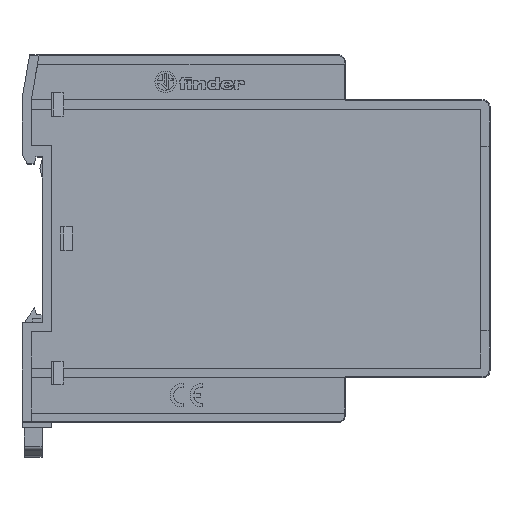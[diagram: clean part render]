
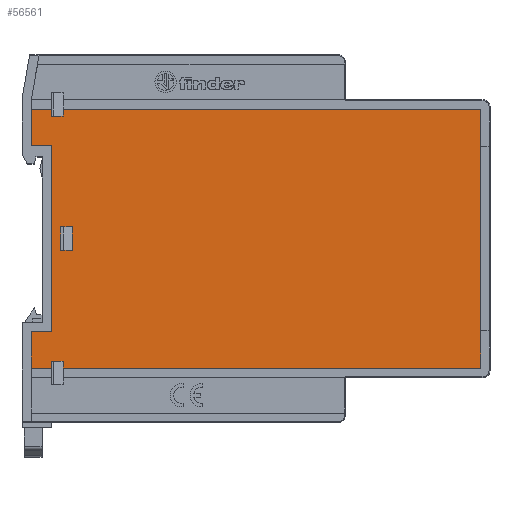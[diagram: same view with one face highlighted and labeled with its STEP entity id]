
A CAD part, top view. The second image highlights one B-rep face of the part: STEP entity #56561.
In plain terms, the highlighted planar face has unit normal (0, 0, 1).
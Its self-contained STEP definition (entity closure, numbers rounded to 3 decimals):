
#2305=PLANE('',#61468);
#16286=ORIENTED_EDGE('',*,*,#25483,.F.);
#16287=ORIENTED_EDGE('',*,*,#25484,.T.);
#16288=ORIENTED_EDGE('',*,*,#25485,.F.);
#16289=ORIENTED_EDGE('',*,*,#25486,.T.);
#16290=ORIENTED_EDGE('',*,*,#25487,.F.);
#16291=ORIENTED_EDGE('',*,*,#25488,.T.);
#16292=ORIENTED_EDGE('',*,*,#25489,.F.);
#16293=ORIENTED_EDGE('',*,*,#25490,.T.);
#16294=ORIENTED_EDGE('',*,*,#25491,.F.);
#16295=ORIENTED_EDGE('',*,*,#25492,.T.);
#16296=ORIENTED_EDGE('',*,*,#25493,.F.);
#16297=ORIENTED_EDGE('',*,*,#25477,.T.);
#16298=ORIENTED_EDGE('',*,*,#25475,.T.);
#16299=ORIENTED_EDGE('',*,*,#25482,.T.);
#16300=ORIENTED_EDGE('',*,*,#25494,.F.);
#16301=ORIENTED_EDGE('',*,*,#25495,.F.);
#16302=ORIENTED_EDGE('',*,*,#25496,.T.);
#16303=ORIENTED_EDGE('',*,*,#25497,.F.);
#16304=ORIENTED_EDGE('',*,*,#25498,.F.);
#16305=ORIENTED_EDGE('',*,*,#25499,.F.);
#25475=EDGE_CURVE('',#32360,#32359,#40125,.T.);
#25477=EDGE_CURVE('',#32361,#32360,#40127,.T.);
#25482=EDGE_CURVE('',#32359,#32364,#40132,.T.);
#25483=EDGE_CURVE('',#32365,#32366,#40133,.T.);
#25484=EDGE_CURVE('',#32365,#32367,#40134,.T.);
#25485=EDGE_CURVE('',#32368,#32367,#40135,.T.);
#25486=EDGE_CURVE('',#32368,#32369,#40136,.T.);
#25487=EDGE_CURVE('',#32370,#32369,#40137,.T.);
#25488=EDGE_CURVE('',#32370,#32371,#40138,.T.);
#25489=EDGE_CURVE('',#32372,#32371,#40139,.T.);
#25490=EDGE_CURVE('',#32372,#32373,#40140,.T.);
#25491=EDGE_CURVE('',#32374,#32373,#40141,.T.);
#25492=EDGE_CURVE('',#32374,#32375,#40142,.T.);
#25493=EDGE_CURVE('',#32361,#32375,#40143,.T.);
#25494=EDGE_CURVE('',#32376,#32364,#40144,.T.);
#25495=EDGE_CURVE('',#32366,#32376,#40145,.T.);
#25496=EDGE_CURVE('',#32377,#32378,#40146,.T.);
#25497=EDGE_CURVE('',#32379,#32378,#40147,.T.);
#25498=EDGE_CURVE('',#32380,#32379,#40148,.T.);
#25499=EDGE_CURVE('',#32377,#32380,#40149,.T.);
#32359=VERTEX_POINT('',#93243);
#32360=VERTEX_POINT('',#93245);
#32361=VERTEX_POINT('',#93249);
#32364=VERTEX_POINT('',#93257);
#32365=VERTEX_POINT('',#93261);
#32366=VERTEX_POINT('',#93262);
#32367=VERTEX_POINT('',#93264);
#32368=VERTEX_POINT('',#93266);
#32369=VERTEX_POINT('',#93268);
#32370=VERTEX_POINT('',#93270);
#32371=VERTEX_POINT('',#93272);
#32372=VERTEX_POINT('',#93274);
#32373=VERTEX_POINT('',#93276);
#32374=VERTEX_POINT('',#93278);
#32375=VERTEX_POINT('',#93280);
#32376=VERTEX_POINT('',#93283);
#32377=VERTEX_POINT('',#93286);
#32378=VERTEX_POINT('',#93287);
#32379=VERTEX_POINT('',#93289);
#32380=VERTEX_POINT('',#93291);
#40125=LINE('',#93244,#47998);
#40127=LINE('',#93248,#48000);
#40132=LINE('',#93258,#48005);
#40133=LINE('',#93260,#48006);
#40134=LINE('',#93263,#48007);
#40135=LINE('',#93265,#48008);
#40136=LINE('',#93267,#48009);
#40137=LINE('',#93269,#48010);
#40138=LINE('',#93271,#48011);
#40139=LINE('',#93273,#48012);
#40140=LINE('',#93275,#48013);
#40141=LINE('',#93277,#48014);
#40142=LINE('',#93279,#48015);
#40143=LINE('',#93281,#48016);
#40144=LINE('',#93282,#48017);
#40145=LINE('',#93284,#48018);
#40146=LINE('',#93285,#48019);
#40147=LINE('',#93288,#48020);
#40148=LINE('',#93290,#48021);
#40149=LINE('',#93292,#48022);
#47998=VECTOR('',#74710,1000.);
#48000=VECTOR('',#74714,1000.);
#48005=VECTOR('',#74721,1000.);
#48006=VECTOR('',#74724,1000.);
#48007=VECTOR('',#74725,1000.);
#48008=VECTOR('',#74726,1000.);
#48009=VECTOR('',#74727,1000.);
#48010=VECTOR('',#74728,1000.);
#48011=VECTOR('',#74729,1000.);
#48012=VECTOR('',#74730,1000.);
#48013=VECTOR('',#74731,1000.);
#48014=VECTOR('',#74732,1000.);
#48015=VECTOR('',#74733,1000.);
#48016=VECTOR('',#74734,1000.);
#48017=VECTOR('',#74735,1000.);
#48018=VECTOR('',#74736,1000.);
#48019=VECTOR('',#74737,1000.);
#48020=VECTOR('',#74738,1000.);
#48021=VECTOR('',#74739,1000.);
#48022=VECTOR('',#74740,1000.);
#51353=EDGE_LOOP('',(#16286,#16287,#16288,#16289,#16290,#16291,#16292,#16293,
#16294,#16295,#16296,#16297,#16298,#16299,#16300,#16301));
#51354=EDGE_LOOP('',(#16302,#16303,#16304,#16305));
#53945=FACE_BOUND('',#51353,.T.);
#53946=FACE_BOUND('',#51354,.T.);
#56561=ADVANCED_FACE('',(#53945,#53946),#2305,.T.);
#61468=AXIS2_PLACEMENT_3D('',#93259,#74722,#74723);
#74710=DIRECTION('',(0.,1.,0.));
#74714=DIRECTION('',(1.,0.,0.));
#74721=DIRECTION('',(-1.,0.,0.));
#74722=DIRECTION('',(0.,0.,1.));
#74723=DIRECTION('',(1.,0.,0.));
#74724=DIRECTION('',(0.,-1.,0.));
#74725=DIRECTION('',(-1.,0.,0.));
#74726=DIRECTION('',(0.,1.,0.));
#74727=DIRECTION('',(1.,0.,0.));
#74728=DIRECTION('',(0.,1.,0.));
#74729=DIRECTION('',(-1.,0.,0.));
#74730=DIRECTION('',(0.,1.,0.));
#74731=DIRECTION('',(1.,0.,0.));
#74732=DIRECTION('',(0.,-1.,0.));
#74733=DIRECTION('',(1.,0.,0.));
#74734=DIRECTION('',(0.,1.,0.));
#74735=DIRECTION('',(0.,1.,0.));
#74736=DIRECTION('',(1.,0.,0.));
#74737=DIRECTION('',(1.,0.,0.));
#74738=DIRECTION('',(0.,1.,0.));
#74739=DIRECTION('',(1.,0.,0.));
#74740=DIRECTION('',(0.,-1.,0.));
#93243=CARTESIAN_POINT('',(48.,27.75,22.5));
#93244=CARTESIAN_POINT('',(48.,-27.75,22.5));
#93245=CARTESIAN_POINT('',(48.,-27.75,22.5));
#93248=CARTESIAN_POINT('',(-41.5,-27.75,22.5));
#93249=CARTESIAN_POINT('',(-41.5,-27.75,22.5));
#93257=CARTESIAN_POINT('',(-41.5,27.75,22.5));
#93258=CARTESIAN_POINT('',(48.,27.75,22.5));
#93259=CARTESIAN_POINT('',(-50.188,28.787,22.5));
#93260=CARTESIAN_POINT('',(-44.,27.75,22.5));
#93261=CARTESIAN_POINT('',(-44.,27.75,22.5));
#93262=CARTESIAN_POINT('',(-44.,26.25,22.5));
#93263=CARTESIAN_POINT('',(-43.243,27.75,22.5));
#93264=CARTESIAN_POINT('',(-48.3,27.75,22.5));
#93265=CARTESIAN_POINT('',(-48.3,20.,22.5));
#93266=CARTESIAN_POINT('',(-48.3,20.,22.5));
#93267=CARTESIAN_POINT('',(-48.3,20.,22.5));
#93268=CARTESIAN_POINT('',(-44.,20.,22.5));
#93269=CARTESIAN_POINT('',(-44.,-20.,22.5));
#93270=CARTESIAN_POINT('',(-44.,-20.,22.5));
#93271=CARTESIAN_POINT('',(-44.,-20.,22.5));
#93272=CARTESIAN_POINT('',(-48.3,-20.,22.5));
#93273=CARTESIAN_POINT('',(-48.3,-27.75,22.5));
#93274=CARTESIAN_POINT('',(-48.3,-27.75,22.5));
#93275=CARTESIAN_POINT('',(-48.3,-27.75,22.5));
#93276=CARTESIAN_POINT('',(-44.,-27.75,22.5));
#93277=CARTESIAN_POINT('',(-44.,-26.25,22.5));
#93278=CARTESIAN_POINT('',(-44.,-26.25,22.5));
#93279=CARTESIAN_POINT('',(-44.,-26.25,22.5));
#93280=CARTESIAN_POINT('',(-41.5,-26.25,22.5));
#93281=CARTESIAN_POINT('',(-41.5,-27.75,22.5));
#93282=CARTESIAN_POINT('',(-41.5,26.25,22.5));
#93283=CARTESIAN_POINT('',(-41.5,26.25,22.5));
#93284=CARTESIAN_POINT('',(-44.,26.25,22.5));
#93285=CARTESIAN_POINT('',(-42.,2.5,22.5));
#93286=CARTESIAN_POINT('',(-42.,2.5,22.5));
#93287=CARTESIAN_POINT('',(-39.5,2.5,22.5));
#93288=CARTESIAN_POINT('',(-39.5,-2.5,22.5));
#93289=CARTESIAN_POINT('',(-39.5,-2.5,22.5));
#93290=CARTESIAN_POINT('',(-42.,-2.5,22.5));
#93291=CARTESIAN_POINT('',(-42.,-2.5,22.5));
#93292=CARTESIAN_POINT('',(-42.,2.5,22.5));
